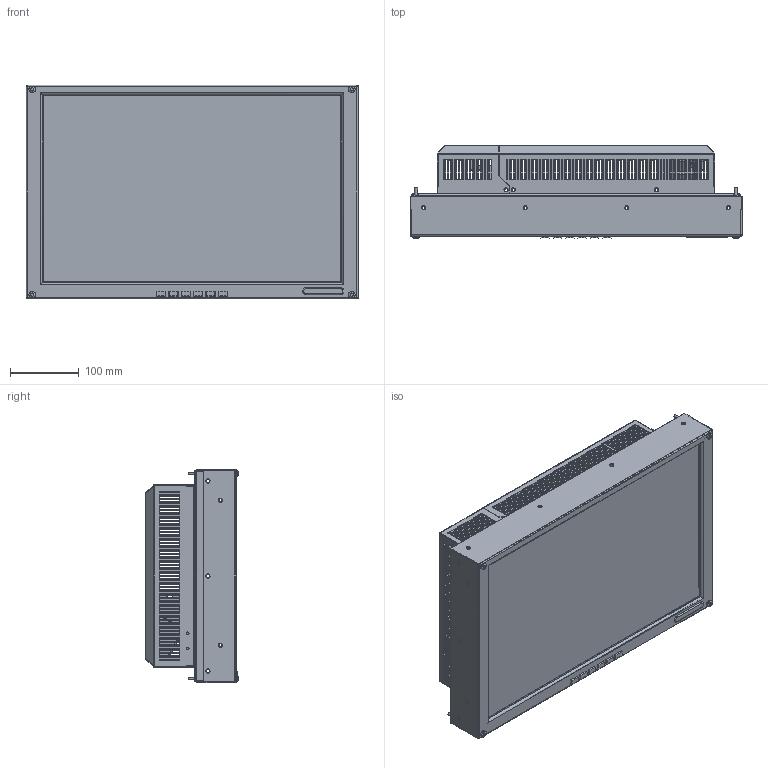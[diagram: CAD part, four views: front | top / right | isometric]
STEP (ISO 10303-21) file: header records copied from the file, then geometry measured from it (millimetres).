
FILE_DESCRIPTION(/* description */ (''),/* implementation_level */ '2;1');
FILE_NAME(/* name */ 'G:\Mechanik\TFT\HD2Line\PDP 20W\PDP 20W Zur Weitergabe an Extern\HD2line_PDP20W_Kundenansicht.stp',/* time_stamp */ '2015-07-24T13:32:10+02:00',/* author */ ('bh'),/* organization */ (''),/* preprocessor_version */ 'ST-DEVELOPER v15.6',/* originating_system */ 'Autodesk Inventor 2015',/* authorisation */ '');
FILE_SCHEMA (('AUTOMOTIVE_DESIGN { 1 0 10303 214 3 1 1 }'));
Products named in the file (44): DICHTGUMMI; DICHTGUMMI_1; DICHTGUMMI_2; DICHTGUMMI_3; DICHTGUMMI_BAUGRUPPE; PENTA-LOGO GRO_; TASTE; TASTE_1; TASTE_2; TASTE_3; TASTE_4; TASTE_5; TASTATUR_1; TASTATUR_BAUGRUPPE; T-200-2001; FRONTRAHMEN 20_ PRO_BAUGRUPPE; T-200-1007; R_CKRAHMEN 20_ PRO_BAUGRUPPE; SICHTFELD; ACTIVE AREA 433,44 X 270,9; SAMSUNG 20_ LTM201M1-L01; ISO 14583-M5X70-4.8_FLACHKOPFS; ISO 14583-M5X70-4.8_FLACHKOPFS_1; ISO 14583-M5X70-4.8_FLACHKOPFS_2; ISO 14583-M5X70-4.8_FLACHKOPFS_3; ANSCHRAUBUNG AN 19 ZOLL RACK; 600-2006A; VERSCHLUSSPLATTE NETZTEILEINSC; VERSCHLUSSPLATTE NETZTEILEINSC_2; SICHERHEITSLABEL; 700-1017A; NETZTEILAUFNAHME_BAUGRUPPE; 200-1006A; STECKKARTENABDECKUNG_BAUGRUPPE; NETZSCHALTER; 700-1014A; 700-1023; R_CKHAUBE_BAUGRUPPE; R_CKHAUBE_BAUGRUPPE_1; TECHNISCHES LABEL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
Assembly tree (43 placements, depth 7):
  20 ZOLL
    20_ PRO DISPLAYGEH_USE_KANTBLE
      FRONTRAHMEN 20_ PRO_BAUGRUPPE
        DICHTGUMMI_BAUGRUPPE
          DICHTGUMMI
          DICHTGUMMI_1
          DICHTGUMMI_2
          DICHTGUMMI_3
        PENTA-LOGO GRO_
        TASTATUR_BAUGRUPPE
          TASTATUR_1
            TASTE
              TASTE
              TASTE_1
              TASTE_2
              TASTE_3
              TASTE_4
              TASTE_5
        T-200-2001
      R_CKRAHMEN 20_ PRO_BAUGRUPPE
        T-200-1007
      SAMSUNG 20_ LTM201M1-L01
        SICHTFELD
        ACTIVE AREA 433,44 X 270,9
      ANSCHRAUBUNG AN 19 ZOLL RACK
        ISO 14583-M5X70-4.8_FLACHKOPFS
        ISO 14583-M5X70-4.8_FLACHKOPFS_1
        ISO 14583-M5X70-4.8_FLACHKOPFS_2
        ISO 14583-M5X70-4.8_FLACHKOPFS_3
      R_CKHAUBE_BAUGRUPPE_1
        NETZTEILAUFNAHME_BAUGRUPPE
          VERSCHLUSSPLATTE NETZTEILEINSC_2
            VERSCHLUSSPLATTE NETZTEILEINSC
              600-2006A
          SICHERHEITSLABEL
          700-1017A
        STECKKARTENABDECKUNG_BAUGRUPPE
          200-1006A
        NETZSCHALTER
        R_CKHAUBE_BAUGRUPPE
          700-1014A
          700-1023
      KARTENTR_GER_BAUGRUPPE
        TECHNISCHES LABEL
Bounding box: 483 x 135.66 x 311 mm (x, y, z)
Volume: 707913.7 mm3; surface area: 1039096.8 mm2
Topology: 27 solids, 27 shells, 2974 faces, 8070 edges, 5154 vertices
Faces by surface type: plane 1681, cylinder 1207, cone 51, torus 20, sphere 13, bspline 2
Full cylindrical faces by diameter (mm): 3.1 x3, 4.019 x4, 4.1 x16, 4.3 x47, 5 x4, 5.1 x4, 5.5 x4, 6.1 x47, 9.5 x4
Entity records: 114253 total; most frequent: DIRECTION 16666, CARTESIAN_POINT 16132, ORIENTED_EDGE 15648, EDGE_CURVE 7824, AXIS2_PLACEMENT_3D 5783, LINE 5100, VECTOR 5100, VERTEX_POINT 5097
